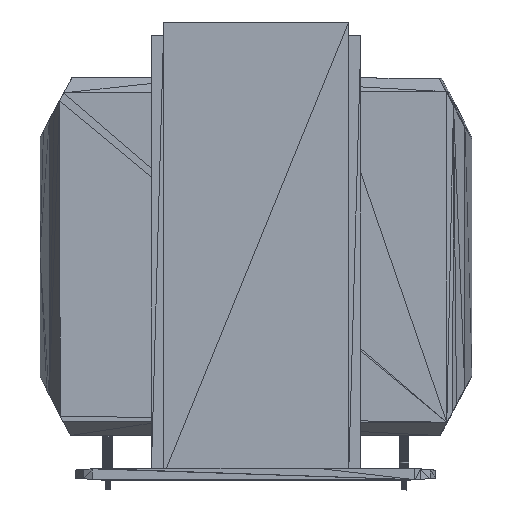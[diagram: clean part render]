
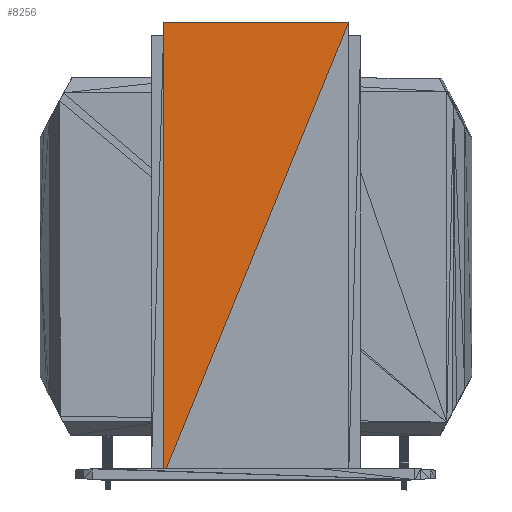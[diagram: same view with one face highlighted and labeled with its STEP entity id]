
A CAD part, left-side view. The second image highlights one B-rep face of the part: STEP entity #8256.
In plain terms, the highlighted planar face has unit normal (-1, 0, 0).
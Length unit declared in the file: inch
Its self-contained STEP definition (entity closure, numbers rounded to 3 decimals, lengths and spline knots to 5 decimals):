
#8140=CARTESIAN_POINT('',(-1.875,0.93749,0.04707));
#8141=VERTEX_POINT('',#8140);
#8193=CARTESIAN_POINT('',(-1.875,0.93656,4.64082));
#8194=VERTEX_POINT('',#8193);
#8209=CARTESIAN_POINT('',(-1.875,0.93749,0.04707));
#8210=DIRECTION('',(0.,0.,1.));
#8211=VECTOR('',#8210,4.59375);
#8212=LINE('',#8209,#8211);
#8213=EDGE_CURVE('',#8141,#8194,#8212,.T.);
#8234=CARTESIAN_POINT('',(-1.875,-0.93844,4.64043));
#8235=DIRECTION('',(1.,0.,0.));
#8236=DIRECTION('',(0.,1.,0.));
#8237=AXIS2_PLACEMENT_3D('',#8234,#8235,#8236);
#8238=PLANE('',#8237);
#8239=CARTESIAN_POINT('',(-1.875,-0.93844,4.64043));
#8240=VERTEX_POINT('',#8239);
#8241=CARTESIAN_POINT('',(-1.875,-0.93844,4.64043));
#8242=DIRECTION('',(0.,1.,0.));
#8243=VECTOR('',#8242,1.875);
#8244=LINE('',#8241,#8243);
#8245=EDGE_CURVE('',#8240,#8194,#8244,.T.);
#8246=ORIENTED_EDGE('',*,*,#8245,.T.);
#8247=ORIENTED_EDGE('',*,*,#8213,.F.);
#8248=CARTESIAN_POINT('',(-1.875,0.93749,0.04707));
#8249=DIRECTION('',(0.,-0.378,0.926));
#8250=VECTOR('',#8249,4.96167);
#8251=LINE('',#8248,#8250);
#8252=EDGE_CURVE('',#8141,#8240,#8251,.T.);
#8253=ORIENTED_EDGE('',*,*,#8252,.T.);
#8254=EDGE_LOOP('',(#8246,#8247,#8253));
#8255=FACE_BOUND('',#8254,.T.);
#8256=ADVANCED_FACE('',(#8255),#8238,.F.);
